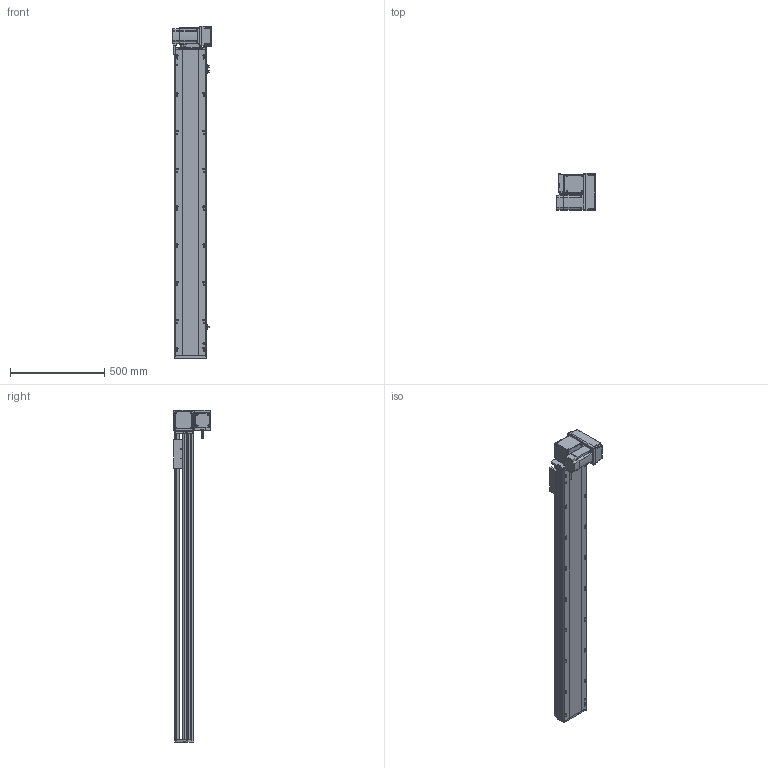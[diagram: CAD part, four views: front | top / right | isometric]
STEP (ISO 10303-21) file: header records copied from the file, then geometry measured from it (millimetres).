
FILE_DESCRIPTION (( 'STEP AP214' ), '1' );
FILE_NAME ('RTB17S-XX-1350-RM-M75-C4.STEP', '2025-12-12T02:08:07', ( '' ), ( '' ), 'SwSTEP 2.0', 'SolidWorks 2018', '' );
FILE_SCHEMA (( 'AUTOMOTIVE_DESIGN' ));
Length unit declared in the file: millimetre
Products named in the file (15): EE672^RTB17S-XX-XX-RM-M75-C4; RTB17S-L-014-T20-P75--々湍釱^RTB17S-RM-々湍釱蚾饜-750W_RTB17S-XX-XX-RM-M75-C4; RTB17S-L-007奻裔^RTB17S-XX-XX-RM-M75-C4; RTB17S-XX-1350-RM-M75-C4; RTB17S-L-004-賑釱^RTB17S-賑釱_RTB17S-XX-XX-RM-M75-C4; RTB22S-GY-018P^RTB17S-RM-々湍釱蚾饜-750W_RTB17S-XX-XX-RM-M75-C4; RTB17-R-011菁釱^RTB17S-XX-XX-RM-M75-C4; RTB22S-GY-005P^RTB17S-RM-々湍釱蚾饜-750W_RTB17S-XX-XX-RM-M75-C4; RTB22S-GY-008-M75--萇儂啣^RTB17S-RM-々湍釱蚾饜-750W_RTB17S-XX-XX-RM-M75-C4; 750W萇儂^RTB17S-XX-XX-RM-M75-C4; RTH13-BL-012覜茼え俋离^RTB17S-賑釱_RTB17S-XX-XX-RM-M75-C4; RTB22S-GY-017P^RTB17S-RM-々湍釱蚾饜-750W_RTB17S-XX-XX-RM-M75-C4; RTB17S-L-001-耜醱啣^RTB17S-XX-XX-RM-M75-C4; RTB17S-RM-々湍釱蚾饜-750W^RTB17S-XX-XX-RM-M75-C4; RTB17S-賑釱^RTB17S-XX-XX-RM-M75-C4
Assembly tree (17 placements, depth 3):
  RTB17S-XX-1350-RM-M75-C4
    RTB17-R-011菁釱^RTB17S-XX-XX-RM-M75-C4
    EE672^RTB17S-XX-XX-RM-M75-C4  x3
    RTB17S-L-001-耜醱啣^RTB17S-XX-XX-RM-M75-C4
    RTB17S-賑釱^RTB17S-XX-XX-RM-M75-C4
      RTB17S-L-004-賑釱^RTB17S-賑釱_RTB17S-XX-XX-RM-M75-C4
      RTH13-BL-012覜茼え俋离^RTB17S-賑釱_RTB17S-XX-XX-RM-M75-C4
    RTB17S-L-007奻裔^RTB17S-XX-XX-RM-M75-C4
    750W萇儂^RTB17S-XX-XX-RM-M75-C4
    RTB17S-RM-々湍釱蚾饜-750W^RTB17S-XX-XX-RM-M75-C4
      RTB17S-L-014-T20-P75--々湍釱^RTB17S-RM-々湍釱蚾饜-750W_RTB17S-XX-XX-RM-M75-C4
      RTB22S-GY-005P^RTB17S-RM-々湍釱蚾饜-750W_RTB17S-XX-XX-RM-M75-C4
      RTB22S-GY-017P^RTB17S-RM-々湍釱蚾饜-750W_RTB17S-XX-XX-RM-M75-C4  x2
      RTB22S-GY-008-M75--萇儂啣^RTB17S-RM-々湍釱蚾饜-750W_RTB17S-XX-XX-RM-M75-C4
      RTB22S-GY-018P^RTB17S-RM-々湍釱蚾饜-750W_RTB17S-XX-XX-RM-M75-C4
Bounding box: 207.4 x 200 x 1757.5 mm (x, y, z)
Volume: 14389044.7 mm3; surface area: 2500834.3 mm2
Topology: 17 solids, 17 shells, 2121 faces, 5890 edges, 3806 vertices
Faces by surface type: plane 974, cylinder 731, bspline 294, cone 110, sphere 8, torus 4
Entity records: 59638 total; most frequent: CARTESIAN_POINT 17554, ORIENTED_EDGE 8624, DIRECTION 8042, EDGE_CURVE 4312, AXIS2_PLACEMENT_3D 2826, VERTEX_POINT 2810, VECTOR 2390, LINE 2390
